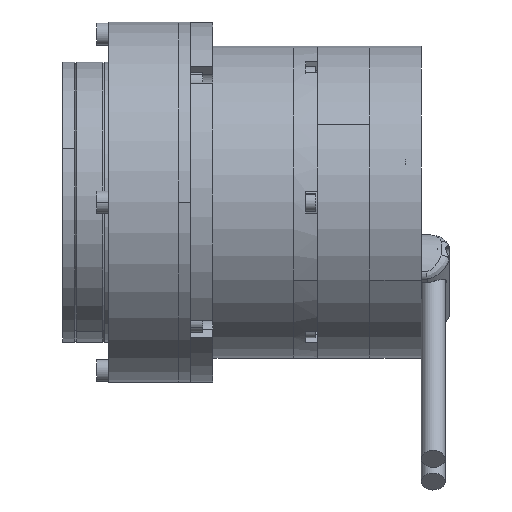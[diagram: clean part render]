
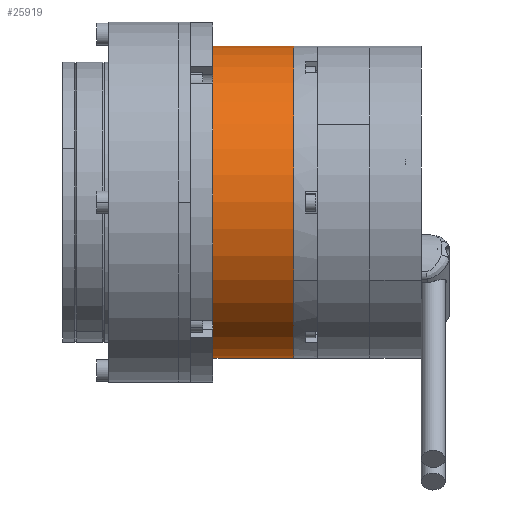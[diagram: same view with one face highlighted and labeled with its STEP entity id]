
A CAD part, left-side view. The second image highlights one B-rep face of the part: STEP entity #25919.
In plain terms, the highlighted cylindrical face has radius 39 mm (diameter 78 mm), a partial arc.
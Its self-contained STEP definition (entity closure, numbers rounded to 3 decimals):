
#224 = DIRECTION ( 'NONE',  ( 0., 1., 0. ) ) ;
#1828 = AXIS2_PLACEMENT_3D ( 'NONE', #35643, #23261, #39057 ) ;
#1894 = AXIS2_PLACEMENT_3D ( 'NONE', #37672, #2148, #23405 ) ;
#2148 = DIRECTION ( 'NONE',  ( 0., -1., 0. ) ) ;
#2959 = LINE ( 'NONE', #42687, #47093 ) ;
#4776 = EDGE_LOOP ( 'NONE', ( #24561, #17713, #45108, #35368 ) ) ;
#9308 = VERTEX_POINT ( 'NONE', #13990 ) ;
#13267 = EDGE_CURVE ( 'NONE', #41680, #9308, #42264, .T. ) ;
#13775 = CARTESIAN_POINT ( 'NONE',  ( 0., -8.5, 39. ) ) ;
#13990 = CARTESIAN_POINT ( 'NONE',  ( 0., -28.7, -39. ) ) ;
#14702 = DIRECTION ( 'NONE',  ( 0., 1., 0. ) ) ;
#17713 = ORIENTED_EDGE ( 'NONE', *, *, #13267, .F. ) ;
#17778 = CIRCLE ( 'NONE', #20279, 39. ) ;
#20279 = AXIS2_PLACEMENT_3D ( 'NONE', #41374, #33070, #21220 ) ;
#20308 = CARTESIAN_POINT ( 'NONE',  ( 0., -28.7, 39. ) ) ;
#20721 = VERTEX_POINT ( 'NONE', #13775 ) ;
#21220 = DIRECTION ( 'NONE',  ( 0., 0., 1. ) ) ;
#23261 = DIRECTION ( 'NONE',  ( 0., 1., 0. ) ) ;
#23405 = DIRECTION ( 'NONE',  ( 0., 0., -1. ) ) ;
#24318 = EDGE_CURVE ( 'NONE', #20721, #35929, #17778, .T. ) ;
#24561 = ORIENTED_EDGE ( 'NONE', *, *, #40419, .F. ) ;
#25919 = ADVANCED_FACE ( 'NONE', ( #27171 ), #46628, .T. ) ;
#27171 = FACE_OUTER_BOUND ( 'NONE', #4776, .T. ) ;
#28259 = CARTESIAN_POINT ( 'NONE',  ( 0., -28.7, -39. ) ) ;
#32657 = EDGE_CURVE ( 'NONE', #41680, #20721, #2959, .T. ) ;
#33070 = DIRECTION ( 'NONE',  ( 0., -1., 0. ) ) ;
#33785 = CARTESIAN_POINT ( 'NONE',  ( 0., -8.5, -39. ) ) ;
#35368 = ORIENTED_EDGE ( 'NONE', *, *, #24318, .T. ) ;
#35643 = CARTESIAN_POINT ( 'NONE',  ( 0., -28.7, 0. ) ) ;
#35929 = VERTEX_POINT ( 'NONE', #33785 ) ;
#37672 = CARTESIAN_POINT ( 'NONE',  ( 0., -28.7, 0. ) ) ;
#38147 = VECTOR ( 'NONE', #224, 1000. ) ;
#39057 = DIRECTION ( 'NONE',  ( 0., 0., 1. ) ) ;
#40419 = EDGE_CURVE ( 'NONE', #9308, #35929, #47765, .T. ) ;
#41374 = CARTESIAN_POINT ( 'NONE',  ( 0., -8.5, 0. ) ) ;
#41680 = VERTEX_POINT ( 'NONE', #20308 ) ;
#42264 = CIRCLE ( 'NONE', #1894, 39. ) ;
#42687 = CARTESIAN_POINT ( 'NONE',  ( 0., -28.7, 39. ) ) ;
#45108 = ORIENTED_EDGE ( 'NONE', *, *, #32657, .T. ) ;
#46628 = CYLINDRICAL_SURFACE ( 'NONE', #1828, 39. ) ;
#47093 = VECTOR ( 'NONE', #14702, 1000. ) ;
#47765 = LINE ( 'NONE', #28259, #38147 ) ;
